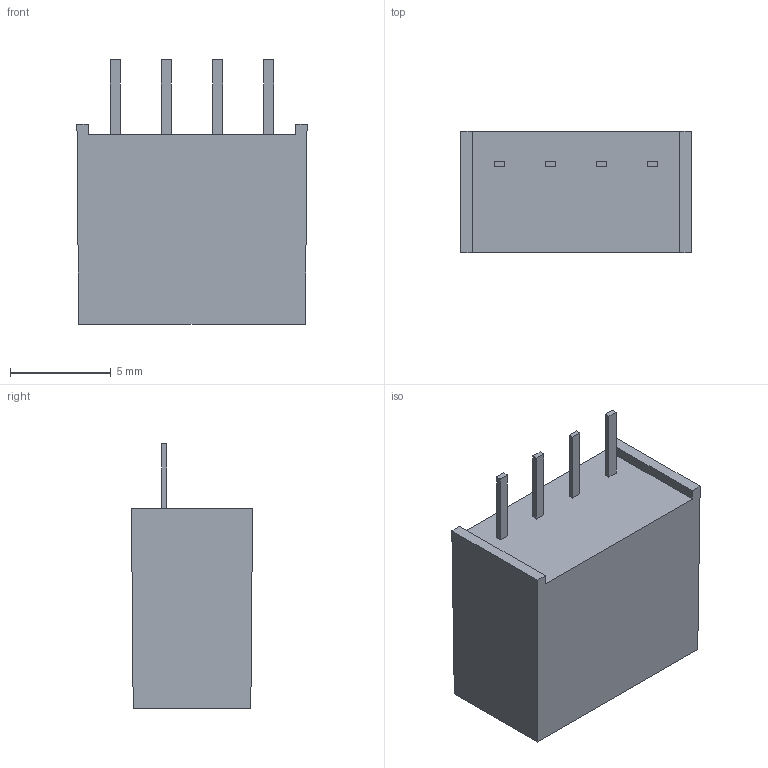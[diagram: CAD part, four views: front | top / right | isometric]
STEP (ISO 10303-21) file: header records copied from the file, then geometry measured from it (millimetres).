
FILE_DESCRIPTION(/* description */ (''),/* implementation_level */ '2;1');
FILE_NAME(/* name */ 'C:\Users\CALLIOPE\Documents\Inventor\機台模治具\型錄用3D尺寸外觀\型錄用-STEP檔\MBU100(3.3V&5V&12V).stp',/* time_stamp */ '2015-03-12T18:24:47+08:00',/* author */ ('CALLIOPE'),/* organization */ (''),/* preprocessor_version */ 'ST-DEVELOPER v15.6',/* originating_system */ 'Autodesk Inventor 2015',/* authorisation */ '');
FILE_SCHEMA (('AUTOMOTIVE_DESIGN { 1 0 10303 214 3 1 1 }'));
Length unit declared in the file: millimetre
Products named in the file (1): MBU100(3.3V&5V&12V)
Bounding box: 11.4 x 6 x 13.1 mm (x, y, z)
Volume: 633.3 mm3; surface area: 492.7 mm2
Topology: 1 solids, 1 shells, 30 faces, 72 edges, 48 vertices
Faces by surface type: plane 30
Entity records: 880 total; most frequent: CARTESIAN_POINT 151, ORIENTED_EDGE 144, DIRECTION 134, LINE 72, VECTOR 72, EDGE_CURVE 72, VERTEX_POINT 48, EDGE_LOOP 34
